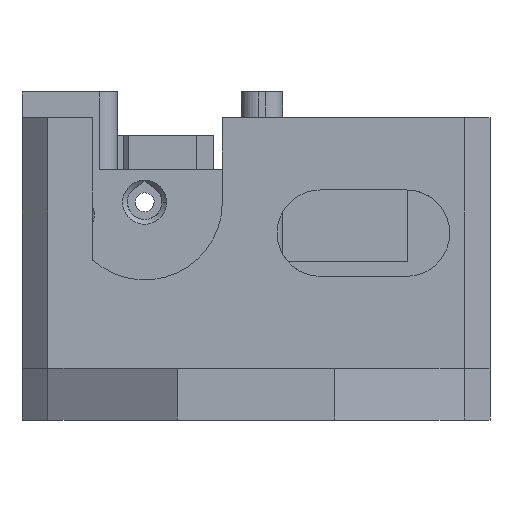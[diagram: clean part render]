
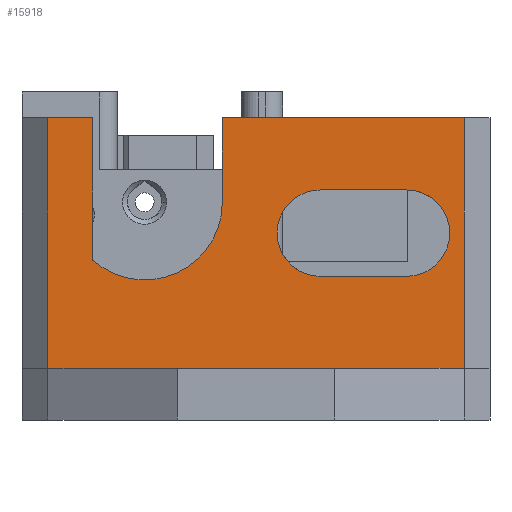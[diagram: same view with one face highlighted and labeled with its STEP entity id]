
A CAD part, front view. The second image highlights one B-rep face of the part: STEP entity #15918.
In plain terms, the highlighted planar face has unit normal (0, -1, 0).
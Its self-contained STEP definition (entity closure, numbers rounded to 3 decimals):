
#1038=DIRECTION('',(-1.,0.,0.));
#1039=VECTOR('',#1038,5.2);
#1040=CARTESIAN_POINT('',(-19.052,-68.384,35.));
#1041=LINE('',#1040,#1039);
#1042=CARTESIAN_POINT('',(-13.052,-68.384,
25.229));
#1043=DIRECTION('',(0.,1.,0.));
#1044=DIRECTION('',(1.,0.,0.));
#1045=AXIS2_PLACEMENT_3D('',#1042,#1043,#1044);
#1047=DIRECTION('',(-1.,0.,0.));
#1048=VECTOR('',#1047,28.);
#1049=CARTESIAN_POINT('',(23.948,-68.384,35.));
#1050=LINE('',#1049,#1048);
#1051=DIRECTION('',(0.,0.,1.));
#1052=VECTOR('',#1051,29.);
#1053=CARTESIAN_POINT('',(23.948,-68.384,6.));
#1054=LINE('',#1053,#1052);
#1055=CARTESIAN_POINT('',(7.282,-68.384,21.65));
#1056=DIRECTION('',(0.,1.,0.));
#1057=DIRECTION('',(0.,0.,-1.));
#1058=AXIS2_PLACEMENT_3D('',#1055,#1056,#1057);
#1060=CARTESIAN_POINT('',(17.282,-68.384,21.65));
#1061=DIRECTION('',(0.,1.,0.));
#1062=DIRECTION('',(1.,0.,0.));
#1063=AXIS2_PLACEMENT_3D('',#1060,#1061,#1062);
#1065=CARTESIAN_POINT('',(17.282,-68.384,21.65));
#1066=DIRECTION('',(0.,1.,0.));
#1067=DIRECTION('',(0.,0.,1.));
#1068=AXIS2_PLACEMENT_3D('',#1065,#1066,#1067);
#1070=CARTESIAN_POINT('',(7.282,-68.384,21.65));
#1071=DIRECTION('',(0.,1.,0.));
#1072=DIRECTION('',(-1.,0.,0.));
#1073=AXIS2_PLACEMENT_3D('',#1070,#1071,#1072);
#1079=DIRECTION('',(-1.,0.,0.));
#1080=VECTOR('',#1079,48.2);
#1081=CARTESIAN_POINT('',(23.948,-68.384,6.));
#1082=LINE('',#1081,#1080);
#3229=DIRECTION('',(1.,0.,0.));
#3230=VECTOR('',#3229,10.);
#3231=CARTESIAN_POINT('',(7.282,-68.384,16.65));
#3232=LINE('',#3231,#3230);
#3245=DIRECTION('',(-1.,0.,0.));
#3246=VECTOR('',#3245,10.);
#3247=CARTESIAN_POINT('',(17.282,-68.384,26.65));
#3248=LINE('',#3247,#3246);
#3312=DIRECTION('',(0.,0.,1.));
#3313=VECTOR('',#3312,9.771);
#3314=CARTESIAN_POINT('',(-4.052,-68.384,
25.229));
#3315=LINE('',#3314,#3313);
#3328=DIRECTION('',(0.,0.,-1.));
#3329=VECTOR('',#3328,16.479);
#3330=CARTESIAN_POINT('',(-19.052,-68.384,35.));
#3331=LINE('',#3330,#3329);
#3904=DIRECTION('',(0.,0.,1.));
#3905=VECTOR('',#3904,29.);
#3906=CARTESIAN_POINT('',(-24.252,-68.384,6.));
#3907=LINE('',#3906,#3905);
#12005=CARTESIAN_POINT('',(23.948,-68.384,35.));
#12006=CARTESIAN_POINT('',(-4.052,-68.384,35.));
#12007=VERTEX_POINT('',#12005);
#12008=VERTEX_POINT('',#12006);
#12009=CARTESIAN_POINT('',(-19.052,-68.384,35.));
#12010=CARTESIAN_POINT('',(-24.252,-68.384,35.));
#12011=VERTEX_POINT('',#12009);
#12012=VERTEX_POINT('',#12010);
#12013=CARTESIAN_POINT('',(23.948,-68.384,6.));
#12014=VERTEX_POINT('',#12013);
#12015=CARTESIAN_POINT('',(-24.252,-68.384,6.));
#12016=VERTEX_POINT('',#12015);
#12017=CARTESIAN_POINT('',(-19.052,-68.384,
18.521));
#12018=VERTEX_POINT('',#12017);
#12019=CARTESIAN_POINT('',(-4.052,-68.384,
25.229));
#12020=VERTEX_POINT('',#12019);
#12021=CARTESIAN_POINT('',(7.282,-68.384,16.65));
#12022=CARTESIAN_POINT('',(17.282,-68.384,16.65));
#12023=VERTEX_POINT('',#12021);
#12024=VERTEX_POINT('',#12022);
#12025=CARTESIAN_POINT('',(17.282,-68.384,26.65));
#12026=CARTESIAN_POINT('',(7.282,-68.384,26.65));
#12027=VERTEX_POINT('',#12025);
#12028=VERTEX_POINT('',#12026);
#12201=CARTESIAN_POINT('',(22.282,-68.384,21.65));
#12202=VERTEX_POINT('',#12201);
#12205=CARTESIAN_POINT('',(2.282,-68.384,21.65));
#12206=VERTEX_POINT('',#12205);
#15883=CARTESIAN_POINT('',(-24.252,-68.384,6.));
#15884=DIRECTION('',(0.,-1.,0.));
#15885=DIRECTION('',(1.,0.,0.));
#15886=AXIS2_PLACEMENT_3D('',#15883,#15884,#15885);
#15887=PLANE('',#15886);
#15889=ORIENTED_EDGE('',*,*,#15888,.T.);
#15891=ORIENTED_EDGE('',*,*,#15890,.T.);
#15893=ORIENTED_EDGE('',*,*,#15892,.F.);
#15895=ORIENTED_EDGE('',*,*,#15894,.T.);
#15897=ORIENTED_EDGE('',*,*,#15896,.F.);
#15899=ORIENTED_EDGE('',*,*,#15898,.T.);
#15900=ORIENTED_EDGE('',*,*,#15840,.F.);
#15901=ORIENTED_EDGE('',*,*,#15874,.F.);
#15902=EDGE_LOOP('',(#15889,#15891,#15893,#15895,#15897,#15899,#15900,#15901));
#15903=FACE_OUTER_BOUND('',#15902,.F.);
#15905=ORIENTED_EDGE('',*,*,#15904,.F.);
#15907=ORIENTED_EDGE('',*,*,#15906,.T.);
#15909=ORIENTED_EDGE('',*,*,#15908,.F.);
#15911=ORIENTED_EDGE('',*,*,#15910,.F.);
#15913=ORIENTED_EDGE('',*,*,#15912,.T.);
#15915=ORIENTED_EDGE('',*,*,#15914,.F.);
#15916=EDGE_LOOP('',(#15905,#15907,#15909,#15911,#15913,#15915));
#15917=FACE_BOUND('',#15916,.F.);
#15918=ADVANCED_FACE('',(#15903,#15917),#15887,.T.);
#1046=CIRCLE('',#1045,9.);
#1059=CIRCLE('',#1058,5.);
#1064=CIRCLE('',#1063,5.);
#1069=CIRCLE('',#1068,5.);
#1074=CIRCLE('',#1073,5.);
#15840=EDGE_CURVE('',#12007,#12008,#1050,.T.);
#15874=EDGE_CURVE('',#12014,#12007,#1054,.T.);
#15888=EDGE_CURVE('',#12014,#12016,#1082,.T.);
#15890=EDGE_CURVE('',#12016,#12012,#3907,.T.);
#15892=EDGE_CURVE('',#12011,#12012,#1041,.T.);
#15894=EDGE_CURVE('',#12011,#12018,#3331,.T.);
#15896=EDGE_CURVE('',#12020,#12018,#1046,.T.);
#15898=EDGE_CURVE('',#12020,#12008,#3315,.T.);
#15904=EDGE_CURVE('',#12023,#12206,#1059,.T.);
#15906=EDGE_CURVE('',#12023,#12024,#3232,.T.);
#15908=EDGE_CURVE('',#12202,#12024,#1064,.T.);
#15910=EDGE_CURVE('',#12027,#12202,#1069,.T.);
#15912=EDGE_CURVE('',#12027,#12028,#3248,.T.);
#15914=EDGE_CURVE('',#12206,#12028,#1074,.T.);
